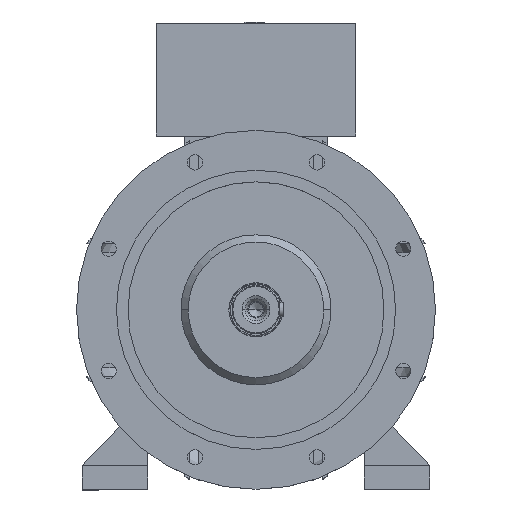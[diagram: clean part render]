
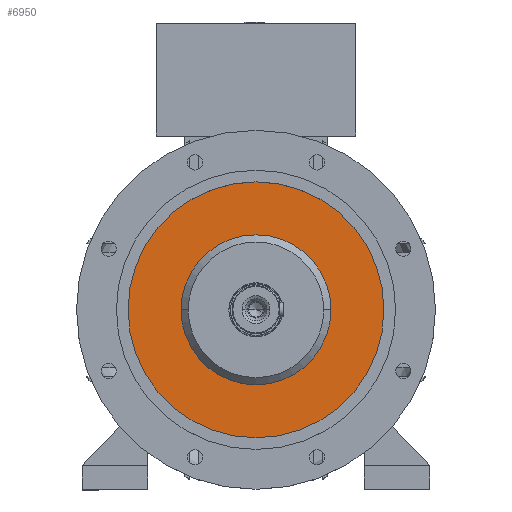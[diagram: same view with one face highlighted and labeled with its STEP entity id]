
A CAD part, top view. The second image highlights one B-rep face of the part: STEP entity #6950.
In plain terms, the highlighted planar face has unit normal (0, 0, 1).
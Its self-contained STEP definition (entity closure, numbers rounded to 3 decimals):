
#1107 = EDGE_CURVE ( 'NONE', #11379, #8299, #1977, .T. ) ;
#1315 = CARTESIAN_POINT ( 'NONE',  ( 0., 0., 293.5 ) ) ;
#1777 = EDGE_LOOP ( 'NONE', ( #19315, #3816 ) ) ;
#1977 = CIRCLE ( 'NONE', #6469, 94. ) ;
#2948 = FACE_OUTER_BOUND ( 'NONE', #1777, .T. ) ;
#3710 = CARTESIAN_POINT ( 'NONE',  ( 0., 160.417, 293.5 ) ) ;
#3816 = ORIENTED_EDGE ( 'NONE', *, *, #26556, .T. ) ;
#4476 = DIRECTION ( 'NONE',  ( -1., 0., 0. ) ) ;
#4588 = DIRECTION ( 'NONE',  ( 0., 0., 1. ) ) ;
#5569 = CIRCLE ( 'NONE', #11087, 94. ) ;
#5745 = DIRECTION ( 'NONE',  ( 0., 0., -1. ) ) ;
#6106 = AXIS2_PLACEMENT_3D ( 'NONE', #15780, #11700, #11431 ) ;
#6469 = AXIS2_PLACEMENT_3D ( 'NONE', #8809, #10935, #4476 ) ;
#6950 = ADVANCED_FACE ( 'NONE', ( #2948, #24733 ), #11983, .T. ) ;
#7516 = AXIS2_PLACEMENT_3D ( 'NONE', #17229, #4588, #18991 ) ;
#8049 = ORIENTED_EDGE ( 'NONE', *, *, #1107, .T. ) ;
#8118 = VERTEX_POINT ( 'NONE', #14374 ) ;
#8299 = VERTEX_POINT ( 'NONE', #13757 ) ;
#8809 = CARTESIAN_POINT ( 'NONE',  ( 0., 0., 293.5 ) ) ;
#9950 = CIRCLE ( 'NONE', #7516, 160.417 ) ;
#10771 = EDGE_LOOP ( 'NONE', ( #22421, #8049 ) ) ;
#10935 = DIRECTION ( 'NONE',  ( 0., 0., -1. ) ) ;
#11034 = EDGE_CURVE ( 'NONE', #8299, #11379, #5569, .T. ) ;
#11087 = AXIS2_PLACEMENT_3D ( 'NONE', #1315, #5745, #24660 ) ;
#11379 = VERTEX_POINT ( 'NONE', #19651 ) ;
#11431 = DIRECTION ( 'NONE',  ( -1., 0., 0. ) ) ;
#11700 = DIRECTION ( 'NONE',  ( 0., 0., 1. ) ) ;
#11983 = PLANE ( 'NONE',  #25669 ) ;
#13757 = CARTESIAN_POINT ( 'NONE',  ( -94., 0., 293.5 ) ) ;
#14237 = DIRECTION ( 'NONE',  ( 0., 0., 1. ) ) ;
#14374 = CARTESIAN_POINT ( 'NONE',  ( 160.417, 0., 293.5 ) ) ;
#15780 = CARTESIAN_POINT ( 'NONE',  ( 0., 0., 293.5 ) ) ;
#16349 = DIRECTION ( 'NONE',  ( 1., 0., 0. ) ) ;
#17229 = CARTESIAN_POINT ( 'NONE',  ( 0., 0., 293.5 ) ) ;
#18239 = EDGE_CURVE ( 'NONE', #21133, #8118, #20325, .T. ) ;
#18991 = DIRECTION ( 'NONE',  ( -1., 0., 0. ) ) ;
#19315 = ORIENTED_EDGE ( 'NONE', *, *, #18239, .T. ) ;
#19651 = CARTESIAN_POINT ( 'NONE',  ( 94., 0., 293.5 ) ) ;
#20325 = CIRCLE ( 'NONE', #6106, 160.417 ) ;
#21133 = VERTEX_POINT ( 'NONE', #26707 ) ;
#22421 = ORIENTED_EDGE ( 'NONE', *, *, #11034, .T. ) ;
#24660 = DIRECTION ( 'NONE',  ( -1., 0., 0. ) ) ;
#24733 = FACE_BOUND ( 'NONE', #10771, .T. ) ;
#25669 = AXIS2_PLACEMENT_3D ( 'NONE', #3710, #14237, #16349 ) ;
#26556 = EDGE_CURVE ( 'NONE', #8118, #21133, #9950, .T. ) ;
#26707 = CARTESIAN_POINT ( 'NONE',  ( -160.417, 0., 293.5 ) ) ;
